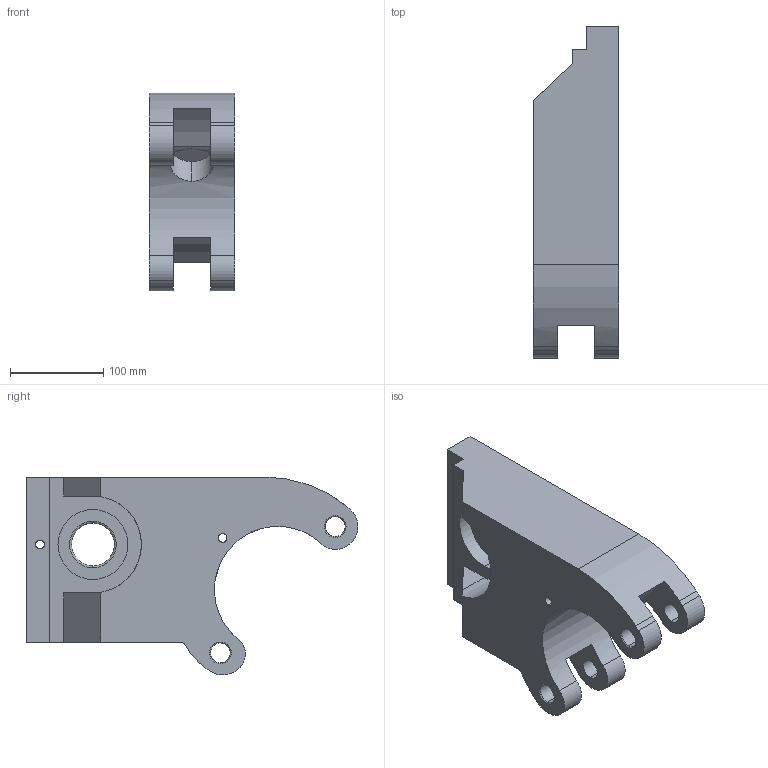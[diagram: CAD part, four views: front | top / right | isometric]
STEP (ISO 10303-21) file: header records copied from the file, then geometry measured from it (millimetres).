
FILE_DESCRIPTION (( 'STEP AP203' ), '1' );
FILE_NAME ('YYDK-500-0039-1-A 支架连接块（500T）-左侧.STEP', '2026-04-22T01:11:50', ( 'Windows 用户' ), ( '' ), 'SwSTEP 2.0', 'SolidWorks 2020', '' );
FILE_SCHEMA (( 'CONFIG_CONTROL_DESIGN' ));
Length unit declared in the file: millimetre
Products named in the file (1): YYDK-500-0039-1-A 支架连接块（500T）-左侧
Bounding box: 92 x 355.96 x 212.23 mm (x, y, z)
Volume: 3128518.2 mm3; surface area: 213006.5 mm2
Topology: 1 solids, 1 shells, 76 faces, 203 edges, 132 vertices
Faces by surface type: cylinder 47, plane 19, cone 6, torus 4
Entity records: 3112 total; most frequent: CARTESIAN_POINT 1048, DIRECTION 435, ORIENTED_EDGE 406, EDGE_CURVE 203, AXIS2_PLACEMENT_3D 175, VERTEX_POINT 132, EDGE_LOOP 99, CIRCLE 98
